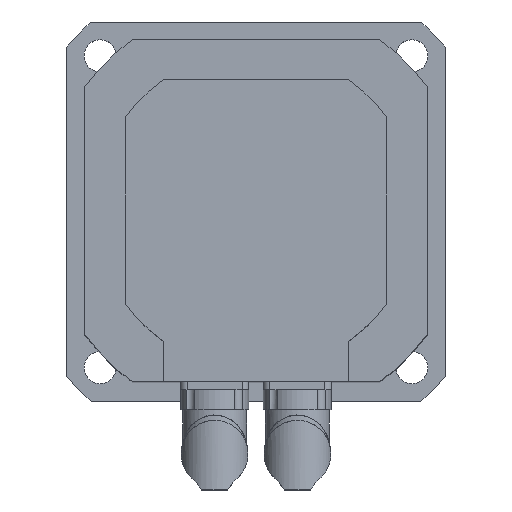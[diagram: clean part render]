
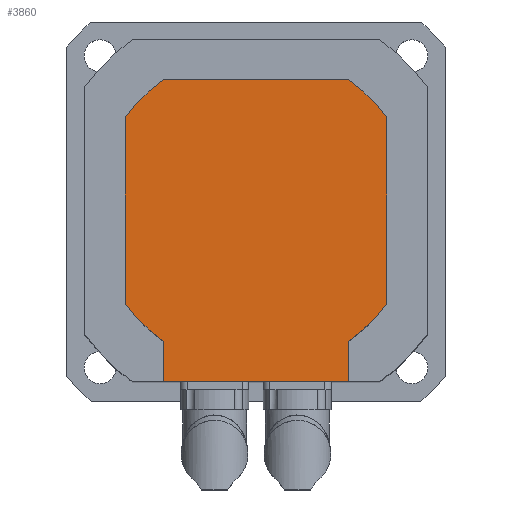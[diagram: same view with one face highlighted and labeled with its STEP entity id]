
A CAD part, top view. The second image highlights one B-rep face of the part: STEP entity #3860.
In plain terms, the highlighted planar face has unit normal (0, 0, 1).
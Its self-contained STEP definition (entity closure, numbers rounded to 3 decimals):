
#3264=CARTESIAN_POINT('',(-49.,-34.627,48.));
#3265=VERTEX_POINT('',#3264);
#3272=CARTESIAN_POINT('',(-49.,34.627,48.));
#3273=VERTEX_POINT('',#3272);
#3274=CARTESIAN_POINT('',(-49.,34.627,48.));
#3275=DIRECTION('',(0.0,-1.0,0.0));
#3276=VECTOR('',#3275,69.253);
#3277=LINE('',#3274,#3276);
#3278=EDGE_CURVE('',#3273,#3265,#3277,.T.);
#3322=CARTESIAN_POINT('',(49.0,34.627,48.));
#3323=VERTEX_POINT('',#3322);
#3330=CARTESIAN_POINT('',(49.0,-34.627,48.));
#3331=VERTEX_POINT('',#3330);
#3332=CARTESIAN_POINT('',(49.0,-34.627,48.));
#3333=DIRECTION('',(0.0,1.0,0.0));
#3334=VECTOR('',#3333,69.253);
#3335=LINE('',#3332,#3334);
#3336=EDGE_CURVE('',#3331,#3323,#3335,.T.);
#3678=CARTESIAN_POINT('',(-34.627,49.0,48.));
#3679=VERTEX_POINT('',#3678);
#3686=CARTESIAN_POINT('',(34.627,49.0,48.));
#3687=VERTEX_POINT('',#3686);
#3688=CARTESIAN_POINT('',(34.627,49.0,48.));
#3689=DIRECTION('',(-1.0,0.0,0.0));
#3690=VECTOR('',#3689,69.253);
#3691=LINE('',#3688,#3690);
#3692=EDGE_CURVE('',#3687,#3679,#3691,.T.);
#3710=CARTESIAN_POINT('',(34.627,-49.0,48.));
#3711=VERTEX_POINT('',#3710);
#3712=CARTESIAN_POINT('',(0.0,0.0,48.));
#3713=DIRECTION('',(0.0,0.0,-1.0));
#3714=DIRECTION('',(-1.0,0.0,0.0));
#3715=AXIS2_PLACEMENT_3D('',#3712,#3713,#3714);
#3716=CIRCLE('',#3715,60.0);
#3717=EDGE_CURVE('',#3331,#3711,#3716,.T.);
#3735=CARTESIAN_POINT('',(0.0,0.0,48.));
#3736=DIRECTION('',(0.0,0.0,-1.0));
#3737=DIRECTION('',(-1.0,0.0,0.0));
#3738=AXIS2_PLACEMENT_3D('',#3735,#3736,#3737);
#3739=CIRCLE('',#3738,60.0);
#3740=EDGE_CURVE('',#3687,#3323,#3739,.T.);
#3753=CARTESIAN_POINT('',(0.0,0.0,48.));
#3754=DIRECTION('',(0.0,0.0,-1.0));
#3755=DIRECTION('',(-1.0,0.0,0.0));
#3756=AXIS2_PLACEMENT_3D('',#3753,#3754,#3755);
#3757=CIRCLE('',#3756,60.0);
#3758=EDGE_CURVE('',#3273,#3679,#3757,.T.);
#3772=CARTESIAN_POINT('',(-34.627,-49.0,48.));
#3773=VERTEX_POINT('',#3772);
#3780=CARTESIAN_POINT('',(0.0,0.0,48.));
#3781=DIRECTION('',(0.0,0.0,-1.0));
#3782=DIRECTION('',(-1.0,0.0,0.0));
#3783=AXIS2_PLACEMENT_3D('',#3780,#3781,#3782);
#3784=CIRCLE('',#3783,60.0);
#3785=EDGE_CURVE('',#3773,#3265,#3784,.T.);
#3797=CARTESIAN_POINT('',(34.627,-64.0,48.));
#3798=VERTEX_POINT('',#3797);
#3799=CARTESIAN_POINT('',(34.627,-49.0,48.));
#3800=DIRECTION('',(0.0,-1.0,0.0));
#3801=VECTOR('',#3800,15.0);
#3802=LINE('',#3799,#3801);
#3803=EDGE_CURVE('',#3711,#3798,#3802,.T.);
#3819=CARTESIAN_POINT('',(-34.627,-64.0,48.));
#3820=VERTEX_POINT('',#3819);
#3827=CARTESIAN_POINT('',(-34.627,-49.0,48.));
#3828=DIRECTION('',(0.0,-1.0,0.0));
#3829=VECTOR('',#3828,15.0);
#3830=LINE('',#3827,#3829);
#3831=EDGE_CURVE('',#3773,#3820,#3830,.T.);
#3838=CARTESIAN_POINT('',(49.,-64.,48.));
#3839=DIRECTION('',(0.0,0.0,-1.0));
#3840=DIRECTION('',(-1.0,0.0,0.0));
#3841=AXIS2_PLACEMENT_3D('',#3838,#3839,#3840);
#3842=PLANE('',#3841);
#3843=ORIENTED_EDGE('',*,*,#3278,.T.);
#3844=ORIENTED_EDGE('',*,*,#3785,.F.);
#3845=ORIENTED_EDGE('',*,*,#3831,.T.);
#3846=CARTESIAN_POINT('',(34.627,-64.0,48.));
#3847=DIRECTION('',(-1.0,0.0,0.0));
#3848=VECTOR('',#3847,69.253);
#3849=LINE('',#3846,#3848);
#3850=EDGE_CURVE('',#3798,#3820,#3849,.T.);
#3851=ORIENTED_EDGE('',*,*,#3850,.F.);
#3852=ORIENTED_EDGE('',*,*,#3803,.F.);
#3853=ORIENTED_EDGE('',*,*,#3717,.F.);
#3854=ORIENTED_EDGE('',*,*,#3336,.T.);
#3855=ORIENTED_EDGE('',*,*,#3740,.F.);
#3856=ORIENTED_EDGE('',*,*,#3692,.T.);
#3857=ORIENTED_EDGE('',*,*,#3758,.F.);
#3858=EDGE_LOOP('',(#3843,#3844,#3845,#3851,#3852,#3853,#3854,#3855,#3856,#3857));
#3859=FACE_OUTER_BOUND('',#3858,.T.);
#3860=ADVANCED_FACE('',(#3859),#3842,.F.);
